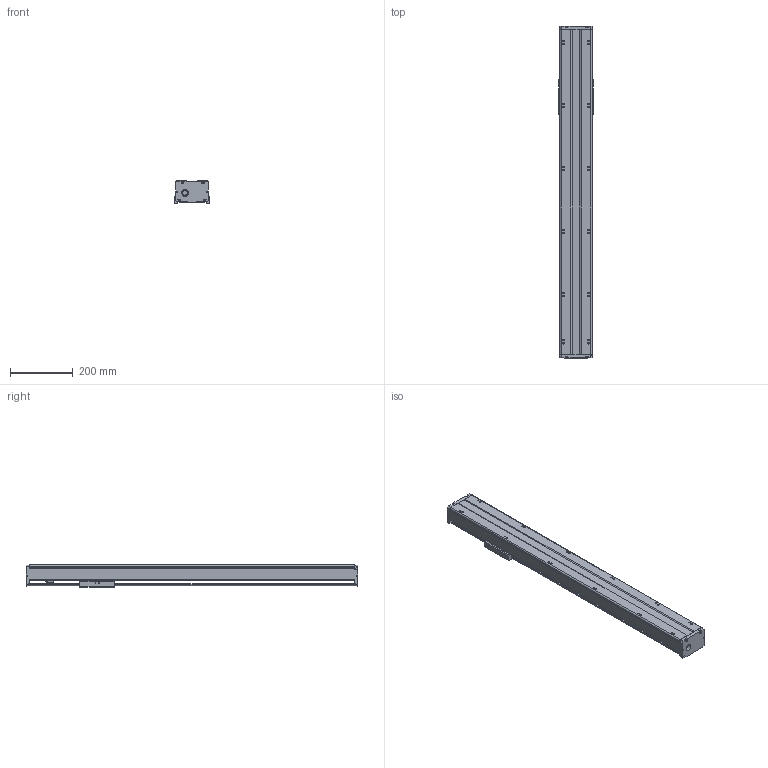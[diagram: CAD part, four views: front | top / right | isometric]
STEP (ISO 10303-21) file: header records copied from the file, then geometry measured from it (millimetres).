
FILE_DESCRIPTION(/* description */ (''),/* implementation_level */ '2;1');
FILE_NAME(/* name */ 'TKA100-800A1F0_asm1.stp',/* time_stamp */ '2017-02-20T16:23:58+08:00',/* author */ (''),/* organization */ (''),/* preprocessor_version */ 'ST-DEVELOPER v15',/* originating_system */ 'SIEMENS PLM Software NX 8.5',/* authorisation */ '');
FILE_SCHEMA (('AUTOMOTIVE_DESIGN { 1 0 10303 214 3 1 1 1 }'));
Length unit declared in the file: millimetre
Products named in the file (3): 200-02; 200-01; TKA100-800A1F0_asm1_stp
Assembly tree (2 placements, depth 2):
  TKA100-800A1F0_asm1_stp
    200-01
    200-02
Bounding box: 110 x 1054 x 71 mm (x, y, z)
Volume: 2183694.4 mm3; surface area: 724445 mm2
Topology: 2 solids, 8 shells, 695 faces, 1850 edges, 1209 vertices
Faces by surface type: cylinder 273, plane 259, cone 110, torus 27, bspline 26
Full cylindrical faces by diameter (mm): 2.5 x6, 2.6 x8, 3.3 x8, 3.4 x8, 3.8 x4, 4.2 x21, 4.3 x4, 4.5 x4, 5 x1, 5.5 x20, 6.6 x4, 8 x5, 9 x4, 10 x12, 11 x4, 12 x6, 12.05 x2, 15.3 x1, 15.4 x1, 16 x1, 17 x2, 18 x1, 22 x1, 24 x1, 28 x5, 30 x1
Entity records: 26048 total; most frequent: CARTESIAN_POINT 9856, DIRECTION 3307, ORIENTED_EDGE 3080, EDGE_CURVE 1540, AXIS2_PLACEMENT_3D 1327, VERTEX_POINT 1133, EDGE_LOOP 1018, ADVANCED_FACE 695
